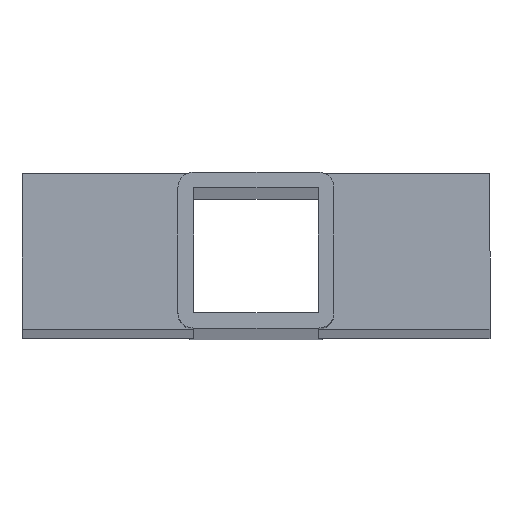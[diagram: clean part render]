
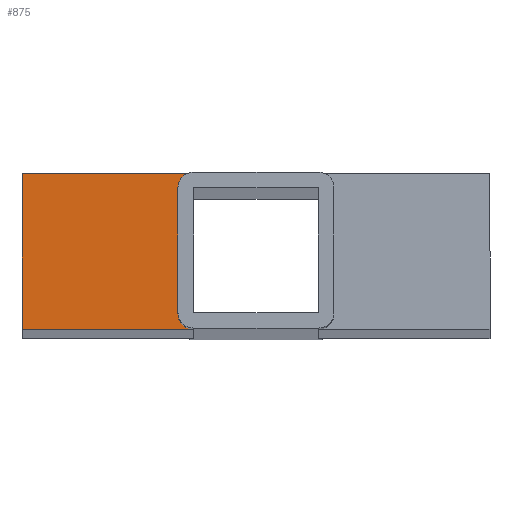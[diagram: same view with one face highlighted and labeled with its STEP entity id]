
A CAD part, top view. The second image highlights one B-rep face of the part: STEP entity #875.
In plain terms, the highlighted planar face has unit normal (0, 0, 1).
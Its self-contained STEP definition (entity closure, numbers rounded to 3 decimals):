
#53 = VERTEX_POINT ( 'NONE', #821 ) ;
#60 = VECTOR ( 'NONE', #1132, 1000. ) ;
#143 = AXIS2_PLACEMENT_3D ( 'NONE', #527, #1208, #630 ) ;
#146 = PLANE ( 'NONE',  #1046 ) ;
#152 = VERTEX_POINT ( 'NONE', #450 ) ;
#156 = VERTEX_POINT ( 'NONE', #442 ) ;
#160 = CARTESIAN_POINT ( 'NONE',  ( -12., -15., 500. ) ) ;
#170 = EDGE_CURVE ( 'NONE', #156, #53, #272, .T. ) ;
#234 = CARTESIAN_POINT ( 'NONE',  ( -45., 0., 500. ) ) ;
#259 = VERTEX_POINT ( 'NONE', #848 ) ;
#272 = LINE ( 'NONE', #1146, #60 ) ;
#291 = ORIENTED_EDGE ( 'NONE', *, *, #616, .F. ) ;
#333 = DIRECTION ( 'NONE',  ( 0., 0., 1. ) ) ;
#334 = VECTOR ( 'NONE', #1090, 1000. ) ;
#363 = DIRECTION ( 'NONE',  ( 1., 0., 0. ) ) ;
#422 = CARTESIAN_POINT ( 'NONE',  ( 0., 0., 500. ) ) ;
#442 = CARTESIAN_POINT ( 'NONE',  ( -45., 15., 500. ) ) ;
#450 = CARTESIAN_POINT ( 'NONE',  ( -15., 12., 500. ) ) ;
#518 = DIRECTION ( 'NONE',  ( 1., 0., 0. ) ) ;
#527 = CARTESIAN_POINT ( 'NONE',  ( -12., 12., 500. ) ) ;
#549 = LINE ( 'NONE', #943, #967 ) ;
#582 = LINE ( 'NONE', #234, #334 ) ;
#616 = EDGE_CURVE ( 'NONE', #259, #156, #582, .T. ) ;
#630 = DIRECTION ( 'NONE',  ( 1., 0., 0. ) ) ;
#644 = DIRECTION ( 'NONE',  ( 0., 0., 1. ) ) ;
#657 = DIRECTION ( 'NONE',  ( 0., -1., 0. ) ) ;
#697 = ORIENTED_EDGE ( 'NONE', *, *, #1220, .F. ) ;
#736 = VERTEX_POINT ( 'NONE', #1157 ) ;
#770 = EDGE_CURVE ( 'NONE', #152, #736, #1093, .T. ) ;
#811 = ORIENTED_EDGE ( 'NONE', *, *, #770, .F. ) ;
#821 = CARTESIAN_POINT ( 'NONE',  ( -12., 15., 500. ) ) ;
#848 = CARTESIAN_POINT ( 'NONE',  ( -45., -15., 500. ) ) ;
#856 = CARTESIAN_POINT ( 'NONE',  ( -15., 0., 500. ) ) ;
#875 = ADVANCED_FACE ( 'NONE', ( #1170 ), #146, .T. ) ;
#917 = EDGE_LOOP ( 'NONE', ( #1062, #1103, #291, #697, #1119, #811 ) ) ;
#937 = VECTOR ( 'NONE', #657, 1000. ) ;
#943 = CARTESIAN_POINT ( 'NONE',  ( 0., -15., 500. ) ) ;
#956 = CIRCLE ( 'NONE', #1078, 3. ) ;
#966 = EDGE_CURVE ( 'NONE', #53, #152, #1091, .T. ) ;
#967 = VECTOR ( 'NONE', #1044, 1000. ) ;
#1044 = DIRECTION ( 'NONE',  ( -1., 0., 0. ) ) ;
#1046 = AXIS2_PLACEMENT_3D ( 'NONE', #422, #333, #518 ) ;
#1062 = ORIENTED_EDGE ( 'NONE', *, *, #966, .F. ) ;
#1078 = AXIS2_PLACEMENT_3D ( 'NONE', #1140, #644, #363 ) ;
#1090 = DIRECTION ( 'NONE',  ( 0., 1., 0. ) ) ;
#1091 = CIRCLE ( 'NONE', #143, 3. ) ;
#1093 = LINE ( 'NONE', #856, #937 ) ;
#1103 = ORIENTED_EDGE ( 'NONE', *, *, #170, .F. ) ;
#1119 = ORIENTED_EDGE ( 'NONE', *, *, #1163, .F. ) ;
#1132 = DIRECTION ( 'NONE',  ( 1., 0., 0. ) ) ;
#1140 = CARTESIAN_POINT ( 'NONE',  ( -12., -12., 500. ) ) ;
#1146 = CARTESIAN_POINT ( 'NONE',  ( 0., 15., 500. ) ) ;
#1157 = CARTESIAN_POINT ( 'NONE',  ( -15., -12., 500. ) ) ;
#1163 = EDGE_CURVE ( 'NONE', #736, #1206, #956, .T. ) ;
#1170 = FACE_OUTER_BOUND ( 'NONE', #917, .T. ) ;
#1206 = VERTEX_POINT ( 'NONE', #160 ) ;
#1208 = DIRECTION ( 'NONE',  ( 0., 0., 1. ) ) ;
#1220 = EDGE_CURVE ( 'NONE', #1206, #259, #549, .T. ) ;
